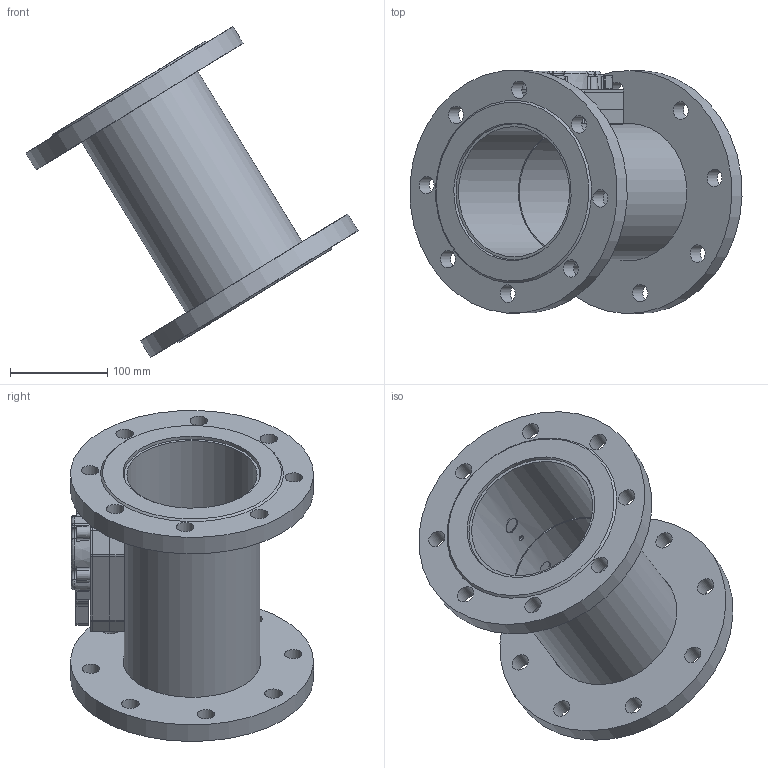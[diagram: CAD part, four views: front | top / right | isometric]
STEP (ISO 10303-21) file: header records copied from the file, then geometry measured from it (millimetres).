
FILE_DESCRIPTION( ( 'Unknown' ), '1' );
FILE_NAME( 'H:/440 pour vente_mai_2013/step_2/DN125_PN16_inox_250mm_rempli.stp', 'Unknown', ( 'Unknown' ), ( 'Unknown' ), 'PSStep 15.0.49', 'Unknown', ' ' );
FILE_SCHEMA( ( 'AUTOMOTIVE_DESIGN { 1 0 10303 214 1 1 1 1 }' ) );
Length unit declared in the file: millimetre
Products named in the file (9): 440_tête_rempli; 0440P011_rempli; 0440P012_rempli; 0440P060_rempli; Assem1; 0440P202_rempli; 0440P225_rempli; 0440P230_rempli; 0440P237_rempli
Assembly tree (10 placements, depth 3):
  Assem1
    0440P202_rempli
    0440P225_rempli  x2
    0440P230_rempli
    0440P237_rempli  x2
    440_tête_rempli
      0440P011_rempli
      0440P012_rempli
      0440P060_rempli
Bounding box: 341.33 x 249.83 x 340.12 mm (x, y, z)
Volume: 2078211.5 mm3; surface area: 497277.2 mm2
Topology: 9 solids, 14 shells, 276 faces, 701 edges, 440 vertices
Faces by surface type: cylinder 96, plane 79, cone 57, torus 29, bspline 15
Full cylindrical faces by diameter (mm): 2.2 x1, 2.459 x2, 2.5 x1, 3 x2, 3.242 x4, 4.1 x1, 5.03 x1, 6 x1, 6.2 x6, 6.917 x2, 10.2 x2, 16 x2, 18 x16, 20 x4, 134 x1, 139.7 x1, 141.5 x2, 250 x2
Entity records: 13568 total; most frequent: CARTESIAN_POINT 5522, DIRECTION 1281, ORIENTED_EDGE 1090, EDGE_CURVE 545, AXIS2_PLACEMENT_3D 538, VERTEX_POINT 377, EDGE_LOOP 362, FACE_OUTER_BOUND 297
